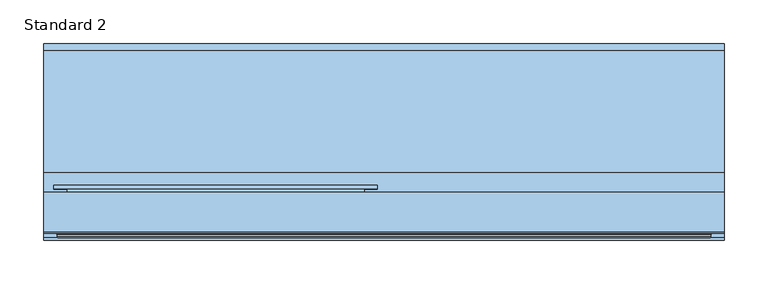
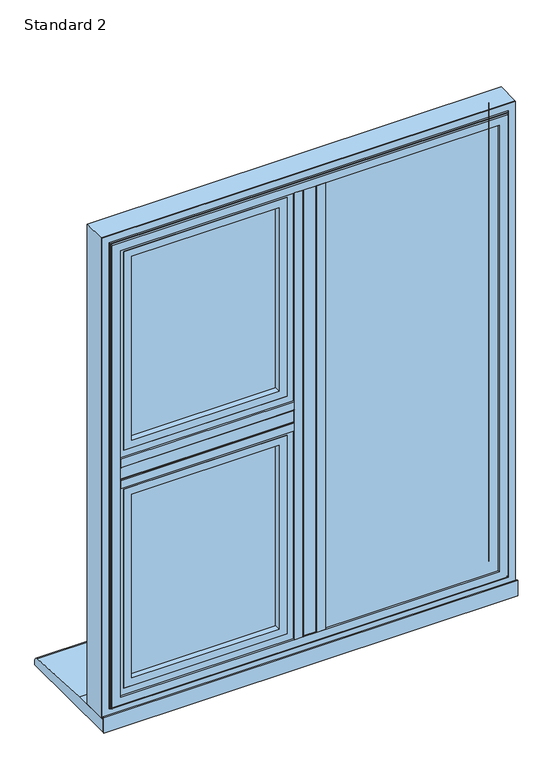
"""IFC4 building model written with IfcOpenShell, lengths in millimetres: window geometry, SMARTS_AlithermHeritage : Standard 2."""

import ifcopenshell
import ifcopenshell.guid

model = None  # the IFC model being written
_history = None  # IfcOwnerHistory: only IFC2X3 demands one
_inside = {}  # id of a spatial element -> (the spatial element, [elements in it])
_under = {}  # id of a project, library or spatial element -> (it, [spatial elements below it])
_declared = {}  # id of a project -> (the project, [libraries it declares])
_typed = {}  # id of a type object -> (the type object, [elements of that type])
_made_of = {}  # id of a material, layer set ... -> (it, [elements and type objects made of it])


def new_model(schema):
    """Start an empty IFC model of exactly this schema.

    Asked for "IFC4X3", IfcOpenShell would pick the latest addendum, in which some entities
    have other attributes; the version numbers below select the first issue.
    IFC2X3 requires an IfcOwnerHistory on every rooted entity: one is made here for all.
    """
    global model, _history
    if schema == "IFC4X3":
        model = ifcopenshell.file(schema_version=(4, 3, 0, 0))
    else:
        model = ifcopenshell.file(schema=schema)
    _inside.clear()
    _under.clear()
    _declared.clear()
    _typed.clear()
    _made_of.clear()
    _history = None
    if model.schema == "IFC2X3":
        org = make("IfcOrganization", Name="unknown")
        user = make(
            "IfcPersonAndOrganization",
            ThePerson=make("IfcPerson", FamilyName="unknown"),
            TheOrganization=org,
        )
        app = make(
            "IfcApplication",
            ApplicationDeveloper=org,
            Version="unknown",
            ApplicationFullName="unknown",
            ApplicationIdentifier="unknown",
        )
        _history = make(
            "IfcOwnerHistory",
            OwningUser=user,
            OwningApplication=app,
            ChangeAction="ADDED",
            CreationDate=0,
        )
    return model


def make(cls, **values):
    """One entity of the class cls with the attributes given. An attribute that is None is left unset."""
    return model.create_entity(
        cls, **{name: value for name, value in values.items() if value is not None}
    )


def rooted(cls, **values):
    """An entity with a GlobalId (a new one), such as an element, a storey or a relation."""
    return make(cls, GlobalId=ifcopenshell.guid.new(), OwnerHistory=_history, **values)


def si_unit(unit_type, name, prefix=None):
    """IfcSIUnit, for example si_unit("LENGTHUNIT", "METRE", prefix="MILLI")."""
    return make("IfcSIUnit", UnitType=unit_type, Prefix=prefix, Name=name)


def assignment(units):
    """IfcUnitAssignment: the units of a project."""
    return None if units is None else make("IfcUnitAssignment", Units=units)


def point(xyz):
    """IfcCartesianPoint."""
    return None if xyz is None else make("IfcCartesianPoint", Coordinates=xyz)


def direction(xyz):
    """IfcDirection."""
    return None if xyz is None else make("IfcDirection", DirectionRatios=xyz)


def frame(location, z_axis=None, x_axis=None):
    """IfcAxis2Placement3D, a coordinate frame: its origin and axes. An axis left out is left unset."""
    return make(
        "IfcAxis2Placement3D",
        Location=point(location),
        Axis=direction(z_axis),
        RefDirection=direction(x_axis),
    )


def frame_2d(location, x_axis=None):
    """IfcAxis2Placement2D, a coordinate frame in the plane: its origin and x axis."""
    return make(
        "IfcAxis2Placement2D", Location=point(location), RefDirection=direction(x_axis)
    )


def origin():
    """The frame at (0, 0, 0) with its axes left unset."""
    return frame((0.0, 0.0, 0.0))


def place(relative_to, where):
    """IfcLocalPlacement: puts the frame where relative to a parent placement (None: the world)."""
    return make(
        "IfcLocalPlacement", PlacementRelTo=relative_to, RelativePlacement=where
    )


def context(
    kind, dimensions, precision=None, world=None, true_north=None, identifier=None
):
    """IfcGeometricRepresentationContext, for example the 3D "Model" context."""
    return make(
        "IfcGeometricRepresentationContext",
        ContextIdentifier=identifier,
        ContextType=kind,
        CoordinateSpaceDimension=dimensions,
        Precision=precision,
        WorldCoordinateSystem=world,
        TrueNorth=true_north,
    )


def project(units=None, contexts=None):
    """IfcProject with its units and contexts."""
    return rooted(
        "IfcProject",
        Name="project",
        RepresentationContexts=contexts,
        UnitsInContext=assignment(units),
    )


def spatial(cls, under=None, at=None, **own):
    """A site, building, storey or space (cls), placed at a placement, below another one or the project."""
    s = rooted(cls, ObjectPlacement=at, **own)
    if under is not None:
        _under.setdefault(under.id(), (under, []))[1].append(s)
    return s


def polyline(points):
    """IfcPolyline through the points."""
    return make("IfcPolyline", Points=[point(p) for p in points])


def circle_curve(where, radius):
    """IfcCircle in the frame where."""
    return make("IfcCircle", Position=where, Radius=radius)


def ellipse_curve(where, semi_axis1, semi_axis2):
    """IfcEllipse in the frame where."""
    return make(
        "IfcEllipse", Position=where, SemiAxis1=semi_axis1, SemiAxis2=semi_axis2
    )


def trimmed(basis, trim1, trim2, sense, master):
    """IfcTrimmedCurve: the piece of a basis curve between two trims."""
    return make(
        "IfcTrimmedCurve",
        BasisCurve=basis,
        Trim1=trim1,
        Trim2=trim2,
        SenseAgreement=sense,
        MasterRepresentation=master,
    )


def segment(curve, same_sense, transition):
    """IfcCompositeCurveSegment."""
    return make(
        "IfcCompositeCurveSegment",
        Transition=transition,
        SameSense=same_sense,
        ParentCurve=curve,
    )


def composite_curve(segments, self_intersect=None):
    """IfcCompositeCurve: segments joined end to end."""
    return make("IfcCompositeCurve", Segments=segments, SelfIntersect=self_intersect)


def outline(outer, holes=None, kind="AREA"):
    """IfcArbitraryClosedProfileDef: a profile drawn as a closed curve; with holes, ...WithVoids."""
    if holes is None:
        return make("IfcArbitraryClosedProfileDef", ProfileType=kind, OuterCurve=outer)
    return make(
        "IfcArbitraryProfileDefWithVoids",
        ProfileType=kind,
        OuterCurve=outer,
        InnerCurves=holes,
    )


def extrude(swept, where, along, depth):
    """IfcExtrudedAreaSolid: the profile swept, set in the frame where, extruded along a direction by depth."""
    return make(
        "IfcExtrudedAreaSolid",
        SweptArea=swept,
        Position=where,
        ExtrudedDirection=direction(along),
        Depth=depth,
    )


def faces_of(points, faces, orient=None, outer=None):
    """IfcFace entities. A face is a list of loops; a loop is a list of indices into points, from 0.

    orient and outer hold one flag for each loop. By default every Orientation is true, the
    first loop of a face is its IfcFaceOuterBound and the others are IfcFaceBound.
    """
    made = []
    for i, loops in enumerate(faces):
        bounds = []
        for j, loop in enumerate(loops):
            is_outer = j == 0 if outer is None else outer[i][j]
            bounds.append(
                make(
                    "IfcFaceOuterBound" if is_outer else "IfcFaceBound",
                    Bound=make("IfcPolyLoop", Polygon=[points[k] for k in loop]),
                    Orientation=True if orient is None else orient[i][j],
                )
            )
        made.append(make("IfcFace", Bounds=bounds))
    return made


def faceted_brep(points, faces, orient=None, outer=None, voids=None):
    """IfcFacetedBrep: a solid bounded by flat faces; with voids (closed shells), ...WithVoids."""
    shared = [point(p) for p in points]
    hull = make("IfcClosedShell", CfsFaces=faces_of(shared, faces, orient, outer))
    if voids is None:
        return make("IfcFacetedBrep", Outer=hull)
    return make(
        "IfcFacetedBrepWithVoids",
        Outer=hull,
        Voids=[
            make(cls, CfsFaces=faces_of(shared, fs, o, b)) for cls, fs, o, b in voids
        ],
    )


def shape(context_of_items, identifier, shape_type, items):
    """IfcShapeRepresentation: the items that make up one representation, for example the "Body"."""
    return make(
        "IfcShapeRepresentation",
        ContextOfItems=context_of_items,
        RepresentationIdentifier=identifier,
        RepresentationType=shape_type,
        Items=items,
    )


def source(mapping_origin, context_of_items, identifier, shape_type, items):
    """IfcRepresentationMap: a shape defined once, which mapped items show again and again."""
    return make(
        "IfcRepresentationMap",
        MappingOrigin=mapping_origin,
        MappedRepresentation=shape(context_of_items, identifier, shape_type, items),
    )


def transform(
    local_origin,
    x_axis=None,
    y_axis=None,
    z_axis=None,
    scale=None,
    scale2=None,
    scale3=None,
    uniform=True,
):
    """IfcCartesianTransformationOperator3D, or its non-uniform kind. x_axis, y_axis, z_axis: its Axis1, 2, 3."""
    if uniform:
        return make(
            "IfcCartesianTransformationOperator3D",
            Axis1=direction(x_axis),
            Axis2=direction(y_axis),
            LocalOrigin=point(local_origin),
            Scale=scale,
            Axis3=direction(z_axis),
        )
    return make(
        "IfcCartesianTransformationOperator3DnonUniform",
        Axis1=direction(x_axis),
        Axis2=direction(y_axis),
        LocalOrigin=point(local_origin),
        Scale=scale,
        Axis3=direction(z_axis),
        Scale2=scale2,
        Scale3=scale3,
    )


def mapped(mapping_source, mapping_target):
    """IfcMappedItem: shows the shape of a source again, moved by a transform."""
    return make(
        "IfcMappedItem", MappingSource=mapping_source, MappingTarget=mapping_target
    )


def made_of(thing, what):
    """Note that an element or type object is made of a material, layer set ...; save() writes the relation."""
    if what is not None:
        _made_of.setdefault(what.id(), (what, []))[1].append(thing)
    return thing


def element(
    cls,
    number,
    at=None,
    inside=None,
    cuts=None,
    type_object=None,
    material=None,
    context=None,
    identifier="Body",
    shape_type=None,
    held_by="IfcProductDefinitionShape",
    body=None,
    shapes=None,
    **own,
):
    """One element of the class cls, such as IfcWall. Its Tag is "e" and its number.

    at: its placement. inside: the storey or other place that contains it. cuts: it is an
    opening in that element (IfcRelVoidsElement). A single representation is given by context,
    identifier, shape_type and body (its items); several are given by shapes. held_by: the class
    of the entity that holds the representations. save() writes the other relations.
    """
    e = rooted(cls, Tag="e%d" % number, ObjectPlacement=at, **own)
    if body is not None:
        shapes = [shape(context, identifier, shape_type, body)]
    if shapes is not None:
        e.Representation = make(held_by, Representations=shapes)
    if inside is not None:
        _inside.setdefault(inside.id(), (inside, []))[1].append(e)
    if cuts is not None:
        rooted(
            "IfcRelVoidsElement", RelatingBuildingElement=cuts, RelatedOpeningElement=e
        )
    if type_object is not None:
        _typed.setdefault(type_object.id(), (type_object, []))[1].append(e)
    return made_of(e, material)


def aggregate(whole, parts):
    """IfcRelAggregates: a whole, such as a stair, and the parts it consists of."""
    return rooted("IfcRelAggregates", RelatingObject=whole, RelatedObjects=parts)


def save(model, path):
    """Write the relations noted so far, then the file.

    IfcRelAggregates (storeys below a building ...), IfcRelContainedInSpatialStructure (elements
    in a storey), IfcRelDefinesByType, IfcRelAssociatesMaterial and IfcRelDeclares: one each for
    every whole, place, type object, material and project.
    """
    for whole, parts in _under.values():
        aggregate(whole, parts)
    for where, things in _inside.values():
        rooted(
            "IfcRelContainedInSpatialStructure",
            RelatedElements=things,
            RelatingStructure=where,
        )
    for kind, things in _typed.values():
        rooted("IfcRelDefinesByType", RelatedObjects=things, RelatingType=kind)
    for what, things in _made_of.values():
        rooted("IfcRelAssociatesMaterial", RelatedObjects=things, RelatingMaterial=what)
    for by, libraries in _declared.values():
        rooted("IfcRelDeclares", RelatingContext=by, RelatedDefinitions=libraries)
    model.write(path)


def plane_surface(at):
    """IfcPlane: the flat surface through the origin of the frame at, square to its z axis."""
    return make("IfcPlane", Position=at)


def cylinder_surface(at, radius):
    """IfcCylindricalSurface: all points at the distance radius from the z axis of the frame at."""
    return make("IfcCylindricalSurface", Position=at, Radius=radius)


def revolved_surface(curve, axis_point, axis_direction):
    """IfcSurfaceOfRevolution: the curve turned about the line through axis_point along axis_direction."""
    return make(
        "IfcSurfaceOfRevolution",
        SweptCurve=make("IfcArbitraryOpenProfileDef", ProfileType="CURVE", Curve=curve),
        AxisPosition=make("IfcAxis1Placement", Location=point(axis_point), Axis=direction(axis_direction)),
    )


def advanced_brep(points, edges, surfaces, faces):
    """IfcAdvancedBrep: a solid bounded by faces that lie on surfaces and meet in shared edges.

    An edge is (start, end): straight between two places in points (the first is 0);
    or (start, end, curve); or (start, end, curve, False) where it runs against its curve.
    A face is (place in surfaces, loops), or (place, loops, False) where it looks against
    its surface's normal. A loop lists edges by number (the first is 1), with a minus sign
    where the edge is run from its end to its start. The first loop is the outer one.
    """
    corners = [point(p) for p in points]
    vertices = [make("IfcVertexPoint", VertexGeometry=c) for c in corners]
    made = []
    for start, end, *more in edges:
        made.append(
            make(
                "IfcEdgeCurve",
                EdgeStart=vertices[start],
                EdgeEnd=vertices[end],
                EdgeGeometry=more[0] if more else make("IfcPolyline", Points=[corners[start], corners[end]]),
                SameSense=more[1] if len(more) > 1 else True,
            )
        )
    hull = []
    for where, loops, *sense in faces:
        bounds = []
        for j, loop in enumerate(loops):
            ring = [make("IfcOrientedEdge", EdgeElement=made[abs(k) - 1], Orientation=k > 0) for k in loop]
            bounds.append(
                make(
                    "IfcFaceOuterBound" if j == 0 else "IfcFaceBound",
                    Bound=make("IfcEdgeLoop", EdgeList=ring),
                    Orientation=True,
                )
            )
        hull.append(make("IfcAdvancedFace", Bounds=bounds, FaceSurface=surfaces[where], SameSense=sense[0] if sense else True))
    return make("IfcAdvancedBrep", Outer=make("IfcClosedShell", CfsFaces=hull))


def standard_2_c4312e2e(model_context):
    return source(origin(), model_context, "Body", "SolidModel", [
        extrude(outline(polyline([(-13.6941456, 95.2798432), (13.6941456, 95.2798432), (13.6941456, 47.279476), (-13.6941456, 47.279476), (-13.6941456, 95.2798432)])), frame((0.0, 0.0, 652.6941456), z_axis=(0.0, 0.0, 1.0), x_axis=(1.0, 0.0, 0.0)), (0.0, 0.0, 1.0), 919.6117089),
        extrude(outline(composite_curve([segment(polyline([(-29.0, 47.279476), (29.0, 47.279476), (29.0, 43.2798432), (13.0, 43.2798432)]), True, "CONTINUOUS"), segment(trimmed(circle_curve(frame_2d((13.0, 44.2798432)), 1.0), [point((13.0, 43.2798432))], [point((12.0, 44.2798432))], False, "CARTESIAN"), True, "CONTINUOUS"), segment(polyline([(12.0, 44.2798432), (12.0, 45.7798432), (-12.0, 45.7798432), (-12.0, 44.2798432)]), True, "CONTINUOUS"), segment(trimmed(circle_curve(frame_2d((-13.0, 44.2798432)), 1.0), [point((-12.0, 44.2798432))], [point((-13.0, 43.2798432))], False, "CARTESIAN"), True, "CONTINUOUS"), segment(polyline([(-13.0, 43.2798432), (-29.0, 43.2798432), (-29.0, 47.279476)]), True, "CONTINUOUS")], self_intersect=False)), frame((0.0, 0.0, 668.0), z_axis=(0.0, 0.0, 1.0), x_axis=(1.0, 0.0, 0.0)), (0.0, 0.0, 1.0), 889.0),
        extrude(outline(polyline([(-13.6941456, 95.2798432), (-13.6941456, 47.279476), (-372.3058544, 47.279476), (-372.3058544, 95.2798432), (-13.6941456, 95.2798432)])), frame((0.0, 0.0, 1098.8058544), z_axis=(0.0, 0.0, 1.0), x_axis=(1.0, 0.0, 0.0)), (0.0, 0.0, 1.0), 27.3882911),
        extrude(outline(composite_curve([segment(polyline([(47.279476, 1083.5), (43.2798432, 1083.5), (43.2798432, 1099.5)]), True, "CONTINUOUS"), segment(trimmed(circle_curve(frame_2d((44.2798432, 1099.5)), 1.0), [point((43.2798432, 1099.5))], [point((44.2798432, 1100.5))], False, "CARTESIAN"), True, "CONTINUOUS"), segment(polyline([(44.2798432, 1100.5), (45.7798432, 1100.5), (45.7798432, 1124.5), (44.2798432, 1124.5)]), True, "CONTINUOUS"), segment(trimmed(circle_curve(frame_2d((44.2798432, 1125.5)), 1.0), [point((44.2798432, 1124.5))], [point((43.2798432, 1125.5))], False, "CARTESIAN"), True, "CONTINUOUS"), segment(polyline([(43.2798432, 1125.5), (43.2798432, 1141.5), (47.279476, 1141.5), (47.279476, 1083.5)]), True, "CONTINUOUS")], self_intersect=False)), frame((-357.0, 0.0, 0.0), z_axis=(1.0, 0.0, 0.0), x_axis=(0.0, 1.0, 0.0)), (0.0, 0.0, 1.0), 328.0),
        extrude(outline(polyline([(-343.5, 89.2798432), (-42.5, 89.2798432), (-42.5, 85.2798432), (-343.5, 85.2798432), (-343.5, 89.2798432)])), frame((0.0, 0.0, 681.5), z_axis=(0.0, 0.0, 1.0), x_axis=(1.0, 0.0, 0.0)), (0.0, 0.0, 1.0), 388.5),
        extrude(outline(polyline([(-343.5, 69.2798432), (-42.5, 69.2798432), (-42.5, 65.2798432), (-343.5, 65.2798432), (-343.5, 69.2798432)])), frame((0.0, 0.0, 681.5), z_axis=(0.0, 0.0, 1.0), x_axis=(1.0, 0.0, 0.0)), (0.0, 0.0, 1.0), 388.5),
        extrude(outline(polyline([(1070.0, -343.5), (681.5, -343.5), (681.5, -42.5), (1070.0, -42.5), (1070.0, -343.5)]), holes=[polyline([(1060.0, -52.5), (691.5, -52.5), (691.5, -333.5), (1060.0, -333.5), (1060.0, -52.5)])]), frame((0.0, 69.2798432, 0.0), z_axis=(0.0, 1.0, 0.0), x_axis=(0.0, 0.0, 1.0)), (0.0, 0.0, 1.0), 16.0),
        extrude(outline(polyline([(1073.5052956, -347.0052956), (677.9947044, -347.0052956), (677.9947044, -38.9947044), (1073.5052956, -38.9947044), (1073.5052956, -347.0052956)]), holes=[polyline([(1058.5, -54.0), (693.0, -54.0), (693.0, -332.0), (1058.5, -332.0), (1058.5, -54.0)])]), frame((0.0, 51.2798432, 0.0), z_axis=(0.0, 1.0, 0.0), x_axis=(0.0, 0.0, 1.0)), (0.0, 0.0, 1.0), 11.3),
        extrude(outline(polyline([(662.3548042, -362.6451958), (662.3548042, -23.3548042), (1089.1451958, -23.3548042), (1089.1451958, -362.6451958), (662.3548042, -362.6451958)]), holes=[polyline([(1073.5, -347.0), (1073.5, -39.0), (678.0, -39.0), (678.0, -347.0), (1073.5, -347.0)])]), frame((0.0, 51.2798432, 0.0), z_axis=(0.0, 1.0, 0.0), x_axis=(0.0, 0.0, 1.0)), (0.0, 0.0, 1.0), 41.6),
        advanced_brep(
        [(-332.0, 98.0798432, 1058.5), (-332.0, 92.8798432, 1058.5), (-332.0, 92.8798432, 693.0), (-332.0, 98.0798432, 693.0), (-54.0, 92.8798432, 693.0), (-54.0, 98.0798432, 693.0), (-54.0, 92.8798432, 1058.5), (-54.0, 98.0798432, 1058.5), (-378.2, 99.2798432, 1104.7), (-378.2, 103.2798432, 1104.7), (-378.2, 103.2798432, 646.8), (-378.2, 99.2798432, 646.8), (-7.8, 103.2798432, 646.8), (-7.8, 99.2798432, 646.8), (-7.8, 103.2798432, 1104.7), (-7.8, 99.2798432, 1104.7), (-363.1467657, 99.2798432, 1089.6467657), (-22.8532343, 99.2798432, 1089.6467657), (-22.8532343, 99.2798432, 661.8532343), (-363.1467657, 99.2798432, 661.8532343), (-349.2, 103.2798432, 675.8), (-36.8, 103.2798432, 675.8), (-36.8, 103.2798432, 1075.7), (-349.2, 103.2798432, 1075.7), (-363.1467657, 92.8798432, 1089.6467657), (-363.1467657, 92.8798432, 661.8532343), (-22.8532343, 92.8798432, 661.8532343), (-22.8532343, 92.8798432, 1089.6467657), (-347.2, 101.2798432, 1073.7), (-347.2, 100.0798432, 1073.7), (-347.2, 100.0798432, 677.8), (-347.2, 101.2798432, 677.8), (-345.2, 98.0798432, 1071.7), (-345.2, 98.0798432, 679.8), (-38.8, 100.0798432, 677.8), (-38.8, 101.2798432, 677.8), (-40.8, 98.0798432, 679.8), (-38.8, 100.0798432, 1073.7), (-38.8, 101.2798432, 1073.7), (-40.8, 98.0798432, 1071.7)],
        [
            (0, 1),
            (1, 2),
            (2, 3),
            (3, 0),
            (2, 4),
            (4, 5),
            (5, 3),
            (4, 6),
            (6, 7),
            (7, 5),
            (6, 1),
            (0, 7),
            (8, 9),
            (9, 10),
            (10, 11),
            (11, 8),
            (10, 12),
            (12, 13),
            (13, 11),
            (12, 14),
            (14, 15),
            (15, 13),
            (15, 8),
            (16, 17),
            (17, 18),
            (18, 19),
            (19, 16),
            (14, 9),
            (20, 21),
            (21, 22),
            (22, 23),
            (23, 20),
            (24, 16),
            (19, 25),
            (25, 24),
            (18, 26),
            (26, 25),
            (17, 27),
            (27, 26),
            (27, 24),
            (28, 29),
            (29, 30),
            (30, 31),
            (31, 28),
            (29, 32, ellipse_curve(frame((-345.2, 100.0798432, 1071.7), z_axis=(0.7071067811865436, 0.0, 0.7071067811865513), x_axis=(0.7071067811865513, 0.0, -0.7071067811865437)), 2.8284271, 2.0)),
            (32, 33),
            (33, 30, ellipse_curve(frame((-345.2, 100.0798432, 679.8), z_axis=(0.7071067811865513, 0.0, -0.7071067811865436), x_axis=(-0.7071067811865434, 0.0, -0.7071067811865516)), 2.8284271, 2.0)),
            (30, 34),
            (34, 35),
            (35, 31),
            (33, 36),
            (36, 34, ellipse_curve(frame((-40.8, 100.0798432, 679.8), z_axis=(0.7071067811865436, 0.0, 0.7071067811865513), x_axis=(0.7071067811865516, 0.0, -0.7071067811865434)), 2.8284271, 2.0)),
            (34, 37),
            (37, 38),
            (38, 35),
            (36, 39),
            (39, 37, ellipse_curve(frame((-40.8, 100.0798432, 1071.7), z_axis=(-0.7071067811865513, 0.0, 0.7071067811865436), x_axis=(0.7071067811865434, 0.0, 0.7071067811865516)), 2.8284271, 2.0)),
            (32, 39),
            (37, 29),
            (28, 38),
            (23, 28, ellipse_curve(frame((-349.2, 101.2798432, 1075.7), z_axis=(-0.7071067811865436, 0.0, -0.7071067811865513), x_axis=(-0.7071067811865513, 0.0, 0.7071067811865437)), 2.8284271, 2.0)),
            (31, 20, ellipse_curve(frame((-349.2, 101.2798432, 675.8), z_axis=(-0.7071067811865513, 0.0, 0.7071067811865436), x_axis=(0.7071067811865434, 0.0, 0.7071067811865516)), 2.8284271, 2.0)),
            (35, 21, ellipse_curve(frame((-36.8, 101.2798432, 675.8), z_axis=(-0.7071067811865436, 0.0, -0.7071067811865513), x_axis=(-0.7071067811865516, 0.0, 0.7071067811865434)), 2.8284271, 2.0)),
            (38, 22, ellipse_curve(frame((-36.8, 101.2798432, 1075.7), z_axis=(0.7071067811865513, 0.0, -0.7071067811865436), x_axis=(-0.7071067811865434, 0.0, -0.7071067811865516)), 2.8284271, 2.0)),
        ],
        [
            plane_surface(frame((-332.0, 92.8798432, 1058.5), z_axis=(1.0, 0.0, 0.0), x_axis=(0.0, 0.0, -1.0))),
            plane_surface(frame((-332.0, 92.8798432, 693.0), z_axis=(0.0, 0.0, 1.0), x_axis=(1.0, 0.0, 0.0))),
            plane_surface(frame((-54.0, 92.8798432, 693.0), z_axis=(-1.0, 0.0, 0.0), x_axis=(0.0, 0.0, 1.0))),
            plane_surface(frame((-54.0, 92.8798432, 1058.5), z_axis=(0.0, 0.0, -1.0), x_axis=(-1.0, 0.0, 0.0))),
            plane_surface(frame((-378.2, 103.2798432, 1104.7), z_axis=(-1.0, 0.0, 0.0), x_axis=(0.0, 0.0, -1.0))),
            plane_surface(frame((-378.2, 103.2798432, 646.8), z_axis=(0.0, 0.0, -1.0), x_axis=(1.0, 0.0, 0.0))),
            plane_surface(frame((-7.8, 103.2798432, 646.8), z_axis=(1.0, 0.0, 0.0), x_axis=(0.0, 0.0, 1.0))),
            plane_surface(frame((-7.8, 99.2798432, 1104.7), z_axis=(0.0, -1.0, 0.0), x_axis=(-1.0, 0.0, 0.0))),
            plane_surface(frame((-7.8, 103.2798432, 1104.7), z_axis=(0.0, 0.0, 1.0), x_axis=(-1.0, 0.0, 0.0))),
            plane_surface(frame((-36.8, 103.2798432, 1075.7), z_axis=(0.0, 1.0, 0.0), x_axis=(-1.0, 0.0, 0.0))),
            plane_surface(frame((-363.1467657, 99.2798432, 1089.6467657), z_axis=(-1.0, 0.0, 0.0), x_axis=(0.0, 0.0, -1.0))),
            plane_surface(frame((-363.1467657, 99.2798432, 661.8532343), z_axis=(0.0, 0.0, -1.0), x_axis=(1.0, 0.0, 0.0))),
            plane_surface(frame((-22.8532343, 99.2798432, 661.8532343), z_axis=(1.0, 0.0, 0.0), x_axis=(0.0, 0.0, 1.0))),
            plane_surface(frame((-22.8532343, 92.8798432, 1089.6467657), z_axis=(0.0, -1.0, 0.0), x_axis=(-1.0, 0.0, 0.0))),
            plane_surface(frame((-22.8532343, 99.2798432, 1089.6467657), z_axis=(0.0, 0.0, 1.0), x_axis=(-1.0, 0.0, 0.0))),
            plane_surface(frame((-347.2, 100.0798432, 1073.7), z_axis=(1.0, 0.0, 0.0), x_axis=(0.0, 0.0, -1.0))),
            revolved_surface(polyline([(-347.2, 100.0798432, 677.8), (-347.2, 100.0798432, 1073.7)]), (-345.2, 100.0798432, 1083.5), (0.0, 0.0, -1.0)),
            plane_surface(frame((-347.2, 100.0798432, 677.8), z_axis=(0.0, 0.0, 1.0), x_axis=(1.0, 0.0, 0.0))),
            revolved_surface(polyline([(-38.80000000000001, 100.0798432, 677.8), (-347.2, 100.0798432, 677.8)]), (-357.0, 100.0798432, 679.8), (1.0, 0.0, 0.0)),
            plane_surface(frame((-38.8, 100.0798432, 677.8), z_axis=(-1.0, 0.0, 0.0), x_axis=(0.0, 0.0, 1.0))),
            revolved_surface(polyline([(-38.8, 100.0798432, 1073.7), (-38.8, 100.0798432, 677.8)]), (-40.8, 100.0798432, 668.0), (0.0, 0.0, 1.0)),
            plane_surface(frame((-54.0, 98.0798432, 1058.5), z_axis=(0.0, 1.0, 0.0), x_axis=(-1.0, 0.0, 0.0))),
            plane_surface(frame((-38.8, 100.0798432, 1073.7), z_axis=(0.0, 0.0, -1.0), x_axis=(-1.0, 0.0, 0.0))),
            revolved_surface(polyline([(-347.2, 100.0798432, 1073.7), (-38.8, 100.0798432, 1073.7)]), (-29.0, 100.0798432, 1071.7), (-1.0, 0.0, 0.0)),
            cylinder_surface(frame((-349.2, 101.2798432, 1083.5), z_axis=(0.0, 0.0, 1.0), x_axis=(-1.0, 0.0, 0.0)), 2.0),
            cylinder_surface(frame((-357.0, 101.2798432, 675.8), z_axis=(-1.0, 0.0, 0.0), x_axis=(0.0, 0.0, -1.0)), 2.0),
            cylinder_surface(frame((-36.8, 101.2798432, 668.0), z_axis=(0.0, 0.0, -1.0), x_axis=(1.0, 0.0, 0.0)), 2.0),
            cylinder_surface(frame((-29.0, 101.2798432, 1075.7), z_axis=(1.0, 0.0, 0.0), x_axis=(0.0, 0.0, 1.0)), 2.0),
        ],
        [
            (0, [[1, 2, 3, 4]]),
            (1, [[-3, 5, 6, 7]]),
            (2, [[-6, 8, 9, 10]]),
            (3, [[-9, 11, -1, 12]]),
            (4, [[13, 14, 15, 16]]),
            (5, [[-15, 17, 18, 19]]),
            (6, [[-18, 20, 21, 22]]),
            (7, [[-19, -22, 23, -16], [24, 25, 26, 27]]),
            (8, [[-21, 28, -13, -23]]),
            (9, [[-28, -20, -17, -14], [29, 30, 31, 32]]),
            (10, [[33, -27, 34, 35]]),
            (11, [[-34, -26, 36, 37]]),
            (12, [[-36, -25, 38, 39]]),
            (13, [[-37, -39, 40, -35], [-11, -8, -5, -2]]),
            (14, [[-38, -24, -33, -40]]),
            (15, [[41, 42, 43, 44]]),
            (16, [[45, 46, 47, -42]]),
            (17, [[-43, 48, 49, 50]]),
            (18, [[-47, 51, 52, -48]]),
            (19, [[-49, 53, 54, 55]]),
            (20, [[-52, 56, 57, -53]]),
            (21, [[58, -56, -51, -46], [-7, -10, -12, -4]]),
            (22, [[-54, 59, -41, 60]]),
            (23, [[-57, -58, -45, -59]]),
            (24, [[61, -44, 62, -32]]),
            (25, [[-62, -50, 63, -29]]),
            (26, [[-63, -55, 64, -30]]),
            (27, [[-64, -60, -61, -31]]),
        ],
    ),
        extrude(outline(polyline([(-343.5, 89.2798432), (-42.5, 89.2798432), (-42.5, 85.2798432), (-343.5, 85.2798432), (-343.5, 89.2798432)])), frame((0.0, 0.0, 1155.0), z_axis=(0.0, 0.0, 1.0), x_axis=(1.0, 0.0, 0.0)), (0.0, 0.0, 1.0), 388.5),
        extrude(outline(polyline([(-343.5, 69.2798432), (-42.5, 69.2798432), (-42.5, 65.2798432), (-343.5, 65.2798432), (-343.5, 69.2798432)])), frame((0.0, 0.0, 1155.0), z_axis=(0.0, 0.0, 1.0), x_axis=(1.0, 0.0, 0.0)), (0.0, 0.0, 1.0), 388.5),
        extrude(outline(polyline([(1543.5, -343.5), (1155.0, -343.5), (1155.0, -42.5), (1543.5, -42.5), (1543.5, -343.5)]), holes=[polyline([(1533.5, -52.5), (1165.0, -52.5), (1165.0, -333.5), (1533.5, -333.5), (1533.5, -52.5)])]), frame((0.0, 69.2798432, 0.0), z_axis=(0.0, 1.0, 0.0), x_axis=(0.0, 0.0, 1.0)), (0.0, 0.0, 1.0), 16.0),
        extrude(outline(polyline([(1547.0052956, -347.0052956), (1151.4947044, -347.0052956), (1151.4947044, -38.9947044), (1547.0052956, -38.9947044), (1547.0052956, -347.0052956)]), holes=[polyline([(1532.0, -54.0), (1166.5, -54.0), (1166.5, -332.0), (1532.0, -332.0), (1532.0, -54.0)])]), frame((0.0, 51.2798432, 0.0), z_axis=(0.0, 1.0, 0.0), x_axis=(0.0, 0.0, 1.0)), (0.0, 0.0, 1.0), 11.3),
        extrude(outline(polyline([(1135.8548042, -362.6451958), (1135.8548042, -23.3548042), (1562.6451958, -23.3548042), (1562.6451958, -362.6451958), (1135.8548042, -362.6451958)]), holes=[polyline([(1547.0, -347.0), (1547.0, -39.0), (1151.5, -39.0), (1151.5, -347.0), (1547.0, -347.0)])]), frame((0.0, 51.2798432, 0.0), z_axis=(0.0, 1.0, 0.0), x_axis=(0.0, 0.0, 1.0)), (0.0, 0.0, 1.0), 41.6),
        advanced_brep(
        [(-332.0, 98.0798432, 1532.0), (-332.0, 92.8798432, 1532.0), (-332.0, 92.8798432, 1166.5), (-332.0, 98.0798432, 1166.5), (-54.0, 92.8798432, 1166.5), (-54.0, 98.0798432, 1166.5), (-54.0, 92.8798432, 1532.0), (-54.0, 98.0798432, 1532.0), (-378.2, 99.2798432, 1578.2), (-378.2, 103.2798432, 1578.2), (-378.2, 103.2798432, 1120.3), (-378.2, 99.2798432, 1120.3), (-7.8, 103.2798432, 1120.3), (-7.8, 99.2798432, 1120.3), (-7.8, 103.2798432, 1578.2), (-7.8, 99.2798432, 1578.2), (-363.1467657, 99.2798432, 1563.1467657), (-22.8532343, 99.2798432, 1563.1467657), (-22.8532343, 99.2798432, 1135.3532343), (-363.1467657, 99.2798432, 1135.3532343), (-349.2, 103.2798432, 1149.3), (-36.8, 103.2798432, 1149.3), (-36.8, 103.2798432, 1549.2), (-349.2, 103.2798432, 1549.2), (-363.1467657, 92.8798432, 1563.1467657), (-363.1467657, 92.8798432, 1135.3532343), (-22.8532343, 92.8798432, 1135.3532343), (-22.8532343, 92.8798432, 1563.1467657), (-347.2, 101.2798432, 1547.2), (-347.2, 100.0798432, 1547.2), (-347.2, 100.0798432, 1151.3), (-347.2, 101.2798432, 1151.3), (-345.2, 98.0798432, 1545.2), (-345.2, 98.0798432, 1153.3), (-38.8, 100.0798432, 1151.3), (-38.8, 101.2798432, 1151.3), (-40.8, 98.0798432, 1153.3), (-38.8, 100.0798432, 1547.2), (-38.8, 101.2798432, 1547.2), (-40.8, 98.0798432, 1545.2)],
        [
            (0, 1),
            (1, 2),
            (2, 3),
            (3, 0),
            (2, 4),
            (4, 5),
            (5, 3),
            (4, 6),
            (6, 7),
            (7, 5),
            (6, 1),
            (0, 7),
            (8, 9),
            (9, 10),
            (10, 11),
            (11, 8),
            (10, 12),
            (12, 13),
            (13, 11),
            (12, 14),
            (14, 15),
            (15, 13),
            (15, 8),
            (16, 17),
            (17, 18),
            (18, 19),
            (19, 16),
            (14, 9),
            (20, 21),
            (21, 22),
            (22, 23),
            (23, 20),
            (24, 16),
            (19, 25),
            (25, 24),
            (18, 26),
            (26, 25),
            (17, 27),
            (27, 26),
            (27, 24),
            (28, 29),
            (29, 30),
            (30, 31),
            (31, 28),
            (29, 32, ellipse_curve(frame((-345.2, 100.0798432, 1545.2), z_axis=(0.7071067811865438, 0.0, 0.7071067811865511), x_axis=(0.707106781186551, 0.0, -0.7071067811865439)), 2.8284271, 2.0)),
            (32, 33),
            (33, 30, ellipse_curve(frame((-345.2, 100.0798432, 1153.3), z_axis=(0.7071067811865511, 0.0, -0.7071067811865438), x_axis=(-0.7071067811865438, 0.0, -0.7071067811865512)), 2.8284271, 2.0)),
            (30, 34),
            (34, 35),
            (35, 31),
            (33, 36),
            (36, 34, ellipse_curve(frame((-40.8, 100.0798432, 1153.3), z_axis=(0.7071067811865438, 0.0, 0.7071067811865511), x_axis=(0.7071067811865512, 0.0, -0.7071067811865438)), 2.8284271, 2.0)),
            (34, 37),
            (37, 38),
            (38, 35),
            (36, 39),
            (39, 37, ellipse_curve(frame((-40.8, 100.0798432, 1545.2), z_axis=(-0.7071067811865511, 0.0, 0.7071067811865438), x_axis=(0.7071067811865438, 0.0, 0.7071067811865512)), 2.8284271, 2.0)),
            (32, 39),
            (37, 29),
            (28, 38),
            (23, 28, ellipse_curve(frame((-349.2, 101.2798432, 1549.2), z_axis=(-0.7071067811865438, 0.0, -0.7071067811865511), x_axis=(-0.707106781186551, 0.0, 0.7071067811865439)), 2.8284271, 2.0)),
            (31, 20, ellipse_curve(frame((-349.2, 101.2798432, 1149.3), z_axis=(-0.7071067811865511, 0.0, 0.7071067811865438), x_axis=(0.7071067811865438, 0.0, 0.7071067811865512)), 2.8284271, 2.0)),
            (35, 21, ellipse_curve(frame((-36.8, 101.2798432, 1149.3), z_axis=(-0.7071067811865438, 0.0, -0.7071067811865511), x_axis=(-0.7071067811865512, 0.0, 0.7071067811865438)), 2.8284271, 2.0)),
            (38, 22, ellipse_curve(frame((-36.8, 101.2798432, 1549.2), z_axis=(0.7071067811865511, 0.0, -0.7071067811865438), x_axis=(-0.7071067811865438, 0.0, -0.7071067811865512)), 2.8284271, 2.0)),
        ],
        [
            plane_surface(frame((-332.0, 92.8798432, 1532.0), z_axis=(1.0, 0.0, 0.0), x_axis=(0.0, 0.0, -1.0))),
            plane_surface(frame((-332.0, 92.8798432, 1166.5), z_axis=(0.0, 0.0, 1.0), x_axis=(1.0, 0.0, 0.0))),
            plane_surface(frame((-54.0, 92.8798432, 1166.5), z_axis=(-1.0, 0.0, 0.0), x_axis=(0.0, 0.0, 1.0))),
            plane_surface(frame((-54.0, 92.8798432, 1532.0), z_axis=(0.0, 0.0, -1.0), x_axis=(-1.0, 0.0, 0.0))),
            plane_surface(frame((-378.2, 103.2798432, 1578.2), z_axis=(-1.0, 0.0, 0.0), x_axis=(0.0, 0.0, -1.0))),
            plane_surface(frame((-378.2, 103.2798432, 1120.3), z_axis=(0.0, 0.0, -1.0), x_axis=(1.0, 0.0, 0.0))),
            plane_surface(frame((-7.8, 103.2798432, 1120.3), z_axis=(1.0, 0.0, 0.0), x_axis=(0.0, 0.0, 1.0))),
            plane_surface(frame((-7.8, 99.2798432, 1578.2), z_axis=(0.0, -1.0, 0.0), x_axis=(-1.0, 0.0, 0.0))),
            plane_surface(frame((-7.8, 103.2798432, 1578.2), z_axis=(0.0, 0.0, 1.0), x_axis=(-1.0, 0.0, 0.0))),
            plane_surface(frame((-36.8, 103.2798432, 1549.2), z_axis=(0.0, 1.0, 0.0), x_axis=(-1.0, 0.0, 0.0))),
            plane_surface(frame((-363.1467657, 99.2798432, 1563.1467657), z_axis=(-1.0, 0.0, 0.0), x_axis=(0.0, 0.0, -1.0))),
            plane_surface(frame((-363.1467657, 99.2798432, 1135.3532343), z_axis=(0.0, 0.0, -1.0), x_axis=(1.0, 0.0, 0.0))),
            plane_surface(frame((-22.8532343, 99.2798432, 1135.3532343), z_axis=(1.0, 0.0, 0.0), x_axis=(0.0, 0.0, 1.0))),
            plane_surface(frame((-22.8532343, 92.8798432, 1563.1467657), z_axis=(0.0, -1.0, 0.0), x_axis=(-1.0, 0.0, 0.0))),
            plane_surface(frame((-22.8532343, 99.2798432, 1563.1467657), z_axis=(0.0, 0.0, 1.0), x_axis=(-1.0, 0.0, 0.0))),
            plane_surface(frame((-347.2, 100.0798432, 1547.2), z_axis=(1.0, 0.0, 0.0), x_axis=(0.0, 0.0, -1.0))),
            revolved_surface(polyline([(-347.2, 100.0798432, 1151.3), (-347.2, 100.0798432, 1547.2)]), (-345.2, 100.0798432, 1557.0), (0.0, 0.0, -1.0)),
            plane_surface(frame((-347.2, 100.0798432, 1151.3), z_axis=(0.0, 0.0, 1.0), x_axis=(1.0, 0.0, 0.0))),
            revolved_surface(polyline([(-38.80000000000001, 100.0798432, 1151.3), (-347.2, 100.0798432, 1151.3)]), (-357.0, 100.0798432, 1153.3), (1.0, 0.0, 0.0)),
            plane_surface(frame((-38.8, 100.0798432, 1151.3), z_axis=(-1.0, 0.0, 0.0), x_axis=(0.0, 0.0, 1.0))),
            revolved_surface(polyline([(-38.8, 100.0798432, 1547.2), (-38.8, 100.0798432, 1151.3)]), (-40.8, 100.0798432, 1141.5), (0.0, 0.0, 1.0)),
            plane_surface(frame((-54.0, 98.0798432, 1532.0), z_axis=(0.0, 1.0, 0.0), x_axis=(-1.0, 0.0, 0.0))),
            plane_surface(frame((-38.8, 100.0798432, 1547.2), z_axis=(0.0, 0.0, -1.0), x_axis=(-1.0, 0.0, 0.0))),
            revolved_surface(polyline([(-347.2, 100.0798432, 1547.2), (-38.8, 100.0798432, 1547.2)]), (-29.0, 100.0798432, 1545.2), (-1.0, 0.0, 0.0)),
            cylinder_surface(frame((-349.2, 101.2798432, 1557.0), z_axis=(0.0, 0.0, 1.0), x_axis=(-1.0, 0.0, 0.0)), 2.0),
            cylinder_surface(frame((-357.0, 101.2798432, 1149.3), z_axis=(-1.0, 0.0, 0.0), x_axis=(0.0, 0.0, -1.0)), 2.0),
            cylinder_surface(frame((-36.8, 101.2798432, 1141.5), z_axis=(0.0, 0.0, -1.0), x_axis=(1.0, 0.0, 0.0)), 2.0),
            cylinder_surface(frame((-29.0, 101.2798432, 1549.2), z_axis=(1.0, 0.0, 0.0), x_axis=(0.0, 0.0, 1.0)), 2.0),
        ],
        [
            (0, [[1, 2, 3, 4]]),
            (1, [[-3, 5, 6, 7]]),
            (2, [[-6, 8, 9, 10]]),
            (3, [[-9, 11, -1, 12]]),
            (4, [[13, 14, 15, 16]]),
            (5, [[-15, 17, 18, 19]]),
            (6, [[-18, 20, 21, 22]]),
            (7, [[-19, -22, 23, -16], [24, 25, 26, 27]]),
            (8, [[-21, 28, -13, -23]]),
            (9, [[-28, -20, -17, -14], [29, 30, 31, 32]]),
            (10, [[33, -27, 34, 35]]),
            (11, [[-34, -26, 36, 37]]),
            (12, [[-36, -25, 38, 39]]),
            (13, [[-37, -39, 40, -35], [-11, -8, -5, -2]]),
            (14, [[-38, -24, -33, -40]]),
            (15, [[41, 42, 43, 44]]),
            (16, [[45, 46, 47, -42]]),
            (17, [[-43, 48, 49, 50]]),
            (18, [[-47, 51, 52, -48]]),
            (19, [[-49, 53, 54, 55]]),
            (20, [[-52, 56, 57, -53]]),
            (21, [[58, -56, -51, -46], [-7, -10, -12, -4]]),
            (22, [[-54, 59, -41, 60]]),
            (23, [[-57, -58, -45, -59]]),
            (24, [[61, -44, 62, -32]]),
            (25, [[-62, -50, 63, -29]]),
            (26, [[-63, -55, 64, -30]]),
            (27, [[-64, -60, -61, -31]]),
        ],
    ),
        extrude(outline(polyline([(1590.0, 390.0), (1590.0, -390.0), (635.0, -390.0), (635.0, 390.0), (1590.0, 390.0)]), holes=[polyline([(652.7000182, 372.2999818), (652.7000182, -372.2999818), (1572.2999818, -372.2999818), (1572.2999818, 372.2999818), (652.7000182, 372.2999818)])]), frame((0.0, 50.279857, 0.0), z_axis=(0.0, 1.0, 0.0), x_axis=(0.0, 0.0, 1.0)), (0.0, 0.0, 1.0), 44.9999962),
        advanced_brep(
        [(357.0, 43.2798432, 1557.0), (357.0, 47.2798432, 1557.0), (357.0, 47.2798432, 668.0), (357.0, 43.2798432, 668.0), (390.0, 50.279857, 1590.0), (390.0, 48.279857, 1590.0), (390.0, 48.279857, 635.0), (390.0, 50.279857, 635.0), (372.4999818, 43.2798432, 1572.4999818), (-372.4999818, 43.2798432, 1572.4999818), (-372.4999818, 43.2798432, 652.5000182), (372.4999818, 43.2798432, 652.5000182), (-357.0, 43.2798432, 668.0), (-357.0, 43.2798432, 1557.0), (-390.0, 50.279857, 1590.0), (-390.0, 48.279857, 1590.0), (-390.0, 50.279857, 635.0), (372.2999818, 50.279857, 1572.2999818), (-372.2999818, 50.279857, 1572.2999818), (-372.2999818, 50.279857, 652.7000182), (372.2999818, 50.279857, 652.7000182), (-357.0, 47.2798432, 1557.0), (-357.0, 47.2798432, 668.0), (-390.0, 48.279857, 635.0), (-372.2999818, 47.2798432, 1572.2999818), (372.2999818, 47.2798432, 1572.2999818), (372.2999818, 47.2798432, 652.7000182), (374.4999818, 46.779857, 650.5000182), (374.4999818, 45.2798432, 650.5000182), (-374.4999818, 45.2798432, 650.5000182), (-374.4999818, 46.779857, 650.5000182), (374.4999818, 46.779857, 1574.4999818), (374.4999818, 45.2798432, 1574.4999818), (-372.2999818, 47.2798432, 652.7000182), (-374.4999818, 45.2798432, 1574.4999818), (-374.4999818, 46.779857, 1574.4999818), (375.9999818, 48.279857, 1575.9999818), (375.9999818, 48.279857, 649.0000182), (-375.9999818, 48.279857, 649.0000182), (-375.9999818, 48.279857, 1575.9999818)],
        [
            (0, 1),
            (1, 2),
            (2, 3),
            (3, 0),
            (4, 5),
            (5, 6),
            (6, 7),
            (7, 4),
            (8, 9),
            (9, 10),
            (10, 11),
            (11, 8),
            (3, 12),
            (12, 13),
            (13, 0),
            (14, 15),
            (15, 5),
            (4, 14),
            (7, 16),
            (16, 14),
            (17, 18),
            (18, 19),
            (19, 20),
            (20, 17),
            (13, 21),
            (21, 1),
            (2, 22),
            (22, 12),
            (22, 21),
            (6, 23),
            (23, 16),
            (23, 15),
            (24, 18),
            (17, 25),
            (25, 24),
            (20, 26),
            (26, 25),
            (27, 28),
            (28, 29),
            (29, 30),
            (30, 27),
            (31, 32),
            (32, 28),
            (27, 31),
            (19, 33),
            (33, 26),
            (24, 33),
            (29, 34),
            (34, 35),
            (35, 30),
            (34, 32),
            (31, 35),
            (36, 31, ellipse_curve(frame((375.9999818, 46.779857, 1575.9999818), z_axis=(-0.7071067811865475, 0.0, 0.7071067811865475), x_axis=(-0.7071067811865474, 0.0, -0.7071067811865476)), 2.1213203, 1.5)),
            (27, 37, ellipse_curve(frame((375.9999818, 46.779857, 649.0000182), z_axis=(-0.7071067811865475, 0.0, -0.7071067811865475), x_axis=(0.7071067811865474, 0.0, -0.7071067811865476)), 2.1213203, 1.5)),
            (37, 36),
            (30, 38, ellipse_curve(frame((-375.9999818, 46.779857, 649.0000182), z_axis=(-0.7071067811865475, 0.0, 0.7071067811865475), x_axis=(-0.7071067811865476, 0.0, -0.7071067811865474)), 2.1213203, 1.5)),
            (38, 37),
            (35, 39, ellipse_curve(frame((-375.9999818, 46.779857, 1575.9999818), z_axis=(0.7071067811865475, 0.0, 0.7071067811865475), x_axis=(-0.7071067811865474, 0.0, 0.7071067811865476)), 2.1213203, 1.5)),
            (39, 38),
            (36, 39),
            (32, 8, ellipse_curve(frame((372.4999818, 45.2798432, 1572.4999818), z_axis=(0.7071067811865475, 0.0, -0.7071067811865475), x_axis=(0.7071067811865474, 0.0, 0.7071067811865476)), 2.8284271, 2.0)),
            (11, 28, ellipse_curve(frame((372.4999818, 45.2798432, 652.5000182), z_axis=(0.7071067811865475, 0.0, 0.7071067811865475), x_axis=(-0.7071067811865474, 0.0, 0.7071067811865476)), 2.8284271, 2.0)),
            (10, 29, ellipse_curve(frame((-372.4999818, 45.2798432, 652.5000182), z_axis=(0.7071067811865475, 0.0, -0.7071067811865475), x_axis=(0.7071067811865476, 0.0, 0.7071067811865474)), 2.8284271, 2.0)),
            (9, 34, ellipse_curve(frame((-372.4999818, 45.2798432, 1572.4999818), z_axis=(-0.7071067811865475, 0.0, -0.7071067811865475), x_axis=(0.7071067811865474, 0.0, -0.7071067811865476)), 2.8284271, 2.0)),
        ],
        [
            plane_surface(frame((357.0, 47.2798432, 1557.0), z_axis=(-1.0, 0.0, 0.0), x_axis=(0.0, 0.0, -1.0))),
            plane_surface(frame((390.0, 48.279857, 1590.0), z_axis=(1.0, 0.0, 0.0), x_axis=(0.0, 0.0, -1.0))),
            plane_surface(frame((-357.0, 43.2798432, 1557.0), z_axis=(0.0, -1.0, 0.0), x_axis=(1.0, 0.0, 0.0))),
            plane_surface(frame((-390.0, 48.279857, 1590.0), z_axis=(0.0, 0.0, 1.0), x_axis=(1.0, 0.0, 0.0))),
            plane_surface(frame((-390.0, 50.279857, 1590.0), z_axis=(0.0, 1.0, 0.0), x_axis=(1.0, 0.0, 0.0))),
            plane_surface(frame((-357.0, 47.2798432, 1557.0), z_axis=(0.0, 0.0, -1.0), x_axis=(1.0, 0.0, 0.0))),
            plane_surface(frame((357.0, 47.2798432, 668.0), z_axis=(0.0, 0.0, 1.0), x_axis=(-1.0, 0.0, 0.0))),
            plane_surface(frame((-357.0, 47.2798432, 668.0), z_axis=(1.0, 0.0, 0.0), x_axis=(0.0, 0.0, 1.0))),
            plane_surface(frame((390.0, 48.279857, 635.0), z_axis=(0.0, 0.0, -1.0), x_axis=(-1.0, 0.0, 0.0))),
            plane_surface(frame((-390.0, 48.279857, 635.0), z_axis=(-1.0, 0.0, 0.0), x_axis=(0.0, 0.0, 1.0))),
            plane_surface(frame((-372.2999818, 50.279857, 1572.2999818), z_axis=(0.0, 0.0, -1.0), x_axis=(1.0, 0.0, 0.0))),
            plane_surface(frame((372.2999818, 50.279857, 1572.2999818), z_axis=(-1.0, 0.0, 0.0), x_axis=(0.0, 0.0, -1.0))),
            plane_surface(frame((374.4999818, 45.2798432, 650.5000182), z_axis=(0.0, 0.0, -1.0), x_axis=(-1.0, 0.0, 0.0))),
            plane_surface(frame((374.4999818, 45.2798432, 1574.4999818), z_axis=(1.0, 0.0, 0.0), x_axis=(0.0, 0.0, -1.0))),
            plane_surface(frame((372.2999818, 50.279857, 652.7000182), z_axis=(0.0, 0.0, 1.0), x_axis=(-1.0, 0.0, 0.0))),
            plane_surface(frame((-372.2999818, 50.279857, 652.7000182), z_axis=(1.0, 0.0, 0.0), x_axis=(0.0, 0.0, 1.0))),
            plane_surface(frame((-374.4999818, 45.2798432, 650.5000182), z_axis=(-1.0, 0.0, 0.0), x_axis=(0.0, 0.0, 1.0))),
            plane_surface(frame((-372.2999818, 47.2798432, 1572.2999818), z_axis=(0.0, 1.0, 0.0), x_axis=(1.0, 0.0, 0.0))),
            plane_surface(frame((-374.4999818, 45.2798432, 1574.4999818), z_axis=(0.0, 0.0, 1.0), x_axis=(1.0, 0.0, 0.0))),
            revolved_surface(polyline([(374.4999818, 46.779857, 647.5000182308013), (374.4999818, 46.779857, 1577.4999817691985)]), (375.9999818, 46.779857, 1590.0), (0.0, 0.0, -1.0)),
            revolved_surface(polyline([(-377.4999817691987, 46.779857, 650.5000182), (377.49998176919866, 46.779857, 650.5000182)]), (390.0, 46.779857, 649.0000182), (-1.0, 0.0, 0.0)),
            revolved_surface(polyline([(-374.4999818, 46.779857, 1577.4999817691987), (-374.4999818, 46.779857, 647.5000182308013)]), (-375.9999818, 46.779857, 635.0), (0.0, 0.0, 1.0)),
            revolved_surface(polyline([(377.4999817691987, 46.779857, 1574.4999818), (-377.49998176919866, 46.779857, 1574.4999818)]), (-390.0, 46.779857, 1575.9999818), (1.0, 0.0, 0.0)),
            plane_surface(frame((-375.9999818, 48.279857, 1575.9999818), z_axis=(0.0, -1.0, 0.0), x_axis=(1.0, 0.0, 0.0))),
            cylinder_surface(frame((372.4999818, 45.2798432, 1590.0), z_axis=(0.0, 0.0, 1.0), x_axis=(-1.0, 0.0, 0.0)), 2.0),
            cylinder_surface(frame((390.0, 45.2798432, 652.5000182), z_axis=(1.0, 0.0, 0.0), x_axis=(0.0, 0.0, 1.0)), 2.0),
            cylinder_surface(frame((-372.4999818, 45.2798432, 635.0), z_axis=(0.0, 0.0, -1.0), x_axis=(1.0, 0.0, 0.0)), 2.0),
            cylinder_surface(frame((-390.0, 45.2798432, 1572.4999818), z_axis=(-1.0, 0.0, 0.0), x_axis=(0.0, 0.0, -1.0)), 2.0),
        ],
        [
            (0, [[1, 2, 3, 4]]),
            (1, [[5, 6, 7, 8]]),
            (2, [[9, 10, 11, 12], [13, 14, 15, -4]]),
            (3, [[16, 17, -5, 18]]),
            (4, [[19, 20, -18, -8], [21, 22, 23, 24]]),
            (5, [[25, 26, -1, -15]]),
            (6, [[-3, 27, 28, -13]]),
            (7, [[-28, 29, -25, -14]]),
            (8, [[-7, 30, 31, -19]]),
            (9, [[-31, 32, -16, -20]]),
            (10, [[33, -21, 34, 35]]),
            (11, [[-34, -24, 36, 37]]),
            (12, [[38, 39, 40, 41]]),
            (13, [[42, 43, -38, 44]]),
            (14, [[-36, -23, 45, 46]]),
            (15, [[-45, -22, -33, 47]]),
            (16, [[-40, 48, 49, 50]]),
            (17, [[-46, -47, -35, -37], [-26, -29, -27, -2]]),
            (18, [[-49, 51, -42, 52]]),
            (19, [[53, -44, 54, 55]]),
            (20, [[-54, -41, 56, 57]]),
            (21, [[-56, -50, 58, 59]]),
            (22, [[-58, -52, -53, 60]]),
            (23, [[-17, -32, -30, -6], [-57, -59, -60, -55]]),
            (24, [[61, -12, 62, -43]]),
            (25, [[-62, -11, 63, -39]]),
            (26, [[-63, -10, 64, -48]]),
            (27, [[-64, -9, -61, -51]]),
        ],
    ),
        extrude(outline(polyline([(19.0, 75.2798432), (367.0, 75.2798432), (367.0, 71.2798432), (19.0, 71.2798432), (19.0, 75.2798432)])), frame((0.0, 0.0, 658.0), z_axis=(0.0, 0.0, 1.0), x_axis=(1.0, 0.0, 0.0)), (0.0, 0.0, 1.0), 909.0),
        extrude(outline(polyline([(19.0, 55.2798432), (367.0, 55.2798432), (367.0, 51.2798432), (19.0, 51.2798432), (19.0, 55.2798432)])), frame((0.0, 0.0, 658.0), z_axis=(0.0, 0.0, 1.0), x_axis=(1.0, 0.0, 0.0)), (0.0, 0.0, 1.0), 909.0),
        extrude(outline(polyline([(1567.0, 19.0), (658.0, 19.0), (658.0, 367.0), (1567.0, 367.0), (1567.0, 19.0)]), holes=[polyline([(1557.0, 357.0), (668.0, 357.0), (668.0, 29.0), (1557.0, 29.0), (1557.0, 357.0)])]), frame((0.0, 55.2798432, 0.0), z_axis=(0.0, 1.0, 0.0), x_axis=(0.0, 0.0, 1.0)), (0.0, 0.0, 1.0), 16.0),
        faceted_brep([(366.8148849, 95.2798432, 1566.8148849), (357.0, 78.2798098, 1557.0), (29.0, 78.2798098, 1557.0), (19.1851151, 95.2798432, 1566.8148849), (372.3702676, 78.2798098, 1572.3702676), (372.3702676, 95.2798432, 1572.3702676), (13.6297324, 95.2798432, 1572.3702676), (13.6297324, 78.2798098, 1572.3702676), (13.6297324, 78.2798098, 652.6297324), (13.6297324, 95.2798432, 652.6297324), (372.3702676, 95.2798432, 652.6297324), (372.3702676, 78.2798098, 652.6297324), (19.1851151, 95.2798432, 658.1851151), (366.8148849, 95.2798432, 658.1851151), (357.0, 78.2798098, 668.0), (29.0, 78.2798098, 668.0)], [[[0, 1, 2, 3]], [[4, 5, 6, 7]], [[8, 9, 10, 11]], [[5, 10, 9, 6], [3, 12, 13, 0]], [[7, 8, 11, 4], [1, 14, 15, 2]], [[3, 2, 15, 12]], [[7, 6, 9, 8]], [[12, 15, 14, 13]], [[13, 14, 1, 0]], [[11, 10, 5, 4]]]),
        extrude(outline(polyline([(390.0, 43.2798432), (390.0, 40.7798432), (-390.0, 40.7798432), (-390.0, 43.2798432), (390.0, 43.2798432)])), frame((0.0, 0.0, 610.0), z_axis=(0.0, 0.0, 1.0), x_axis=(1.0, 0.0, 0.0)), (0.0, 0.0, 1.0), 31.0),
        extrude(outline(composite_curve([segment(polyline([(265.7798432, 610.0), (43.2798432, 610.0), (43.2798432, 635.0), (118.7798432, 635.0), (258.4770891, 625.9276664)]), True, "CONTINUOUS"), segment(trimmed(circle_curve(frame_2d((257.7798432, 617.9581088)), 8.0), [point((258.4770891, 625.9276664))], [point((265.7798432, 617.9581088))], False, "CARTESIAN"), True, "CONTINUOUS"), segment(polyline([(265.7798432, 617.9581088), (265.7798432, 610.0)]), True, "CONTINUOUS")], self_intersect=False)), frame((-390.0, 0.0, 0.0), z_axis=(1.0, 0.0, 0.0), x_axis=(0.0, 1.0, 0.0)), (0.0, 0.0, 1.0), 780.0),
    ])


if __name__ == "__main__":
    model = new_model("IFC4")
    model_context = context("Model", 3, world=origin())
    ifc_project = project(units=[si_unit("LENGTHUNIT", "METRE", prefix="MILLI")], contexts=[model_context])
    site = spatial("IfcSite", under=ifc_project)
    building = spatial("IfcBuilding", under=site)
    placement = place(None, origin())
    standard_2_shape = standard_2_c4312e2e(model_context)
    element("IfcWindow", 1, ObjectType="SMARTS_AlithermHeritage : Standard 2", at=placement, inside=building, context=model_context, shape_type="MappedRepresentation", body=[
        mapped(standard_2_shape, transform((0.0, 0.0, 0.0), x_axis=(1.0, 0.0, 0.0), y_axis=(0.0, 1.0, 0.0), z_axis=(0.0, 0.0, 1.0))),
    ])
    save(model, "model.ifc")
